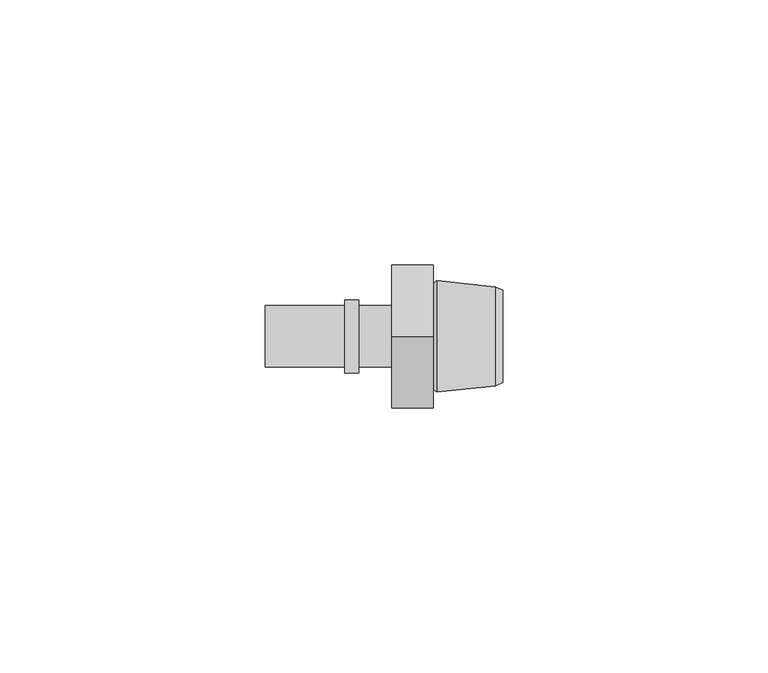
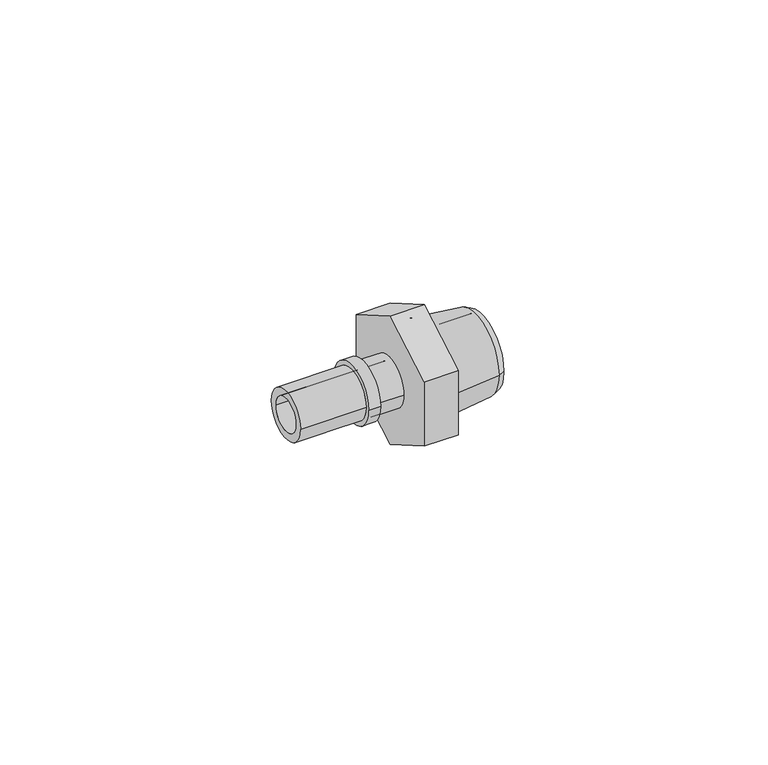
"""IFC4 building model written with IfcOpenShell, lengths in millimetres: pipe fitting geometry, FASTLOC_Adapter_LX, with external thread : FSL A C external PL."""

from ifc_helpers import new_model, si_unit, frame, origin, place, context, project, spatial, polyline, circle_curve, outline, extrude, source, transform, mapped, element, save
from ifc_brep_helpers import plane_surface, cylinder_surface, revolved_surface, advanced_brep


def pipe_fitting_095a3a5d(model_context):
    return source(origin(), model_context, "Body", "SolidModel", [
        extrude(outline(polyline([(-13.5, 7.7942286), (0.0, 15.5884573), (13.5, 7.7942286), (13.5, -7.7942286), (0.0, -15.5884573), (-13.5, -7.7942286), (-13.5, 7.7942286)])), frame((0.0, 0.0, 0.0), z_axis=(1.0, 0.0, 0.0), x_axis=(0.0, 1.0, 0.0)), (0.0, 0.0, 1.0), 7.8),
        advanced_brep(
        [(8.9032803, 7.5, 0.0), (8.9032803, -7.5, 0.0), (21.0, -7.5, 0.0), (21.0, 7.5, 0.0), (7.8, 6.3967197, 0.0), (7.8, -6.3967197, 0.0), (8.5406902, 10.55, 0.0), (8.5406902, -10.55, 0.0), (7.8, -10.0, 0.0), (7.8, 10.0, 0.0), (19.5000007, 9.35, 0.0), (19.5000007, -9.35, 0.0), (21.0, 8.725, 0.0), (21.0, -8.725, 0.0)],
        [
            (0, 1, circle_curve(frame((8.9032803, 0.0, 0.0), z_axis=(-1.0, 0.0, 0.0), x_axis=(0.0, -1.0, 0.0)), 7.5)),
            (1, 2),
            (2, 3, circle_curve(frame((21.0, 0.0, 0.0), z_axis=(1.0, 0.0, 0.0), x_axis=(0.0, -1.0, 0.0)), 7.5)),
            (3, 0),
            (4, 5, circle_curve(frame((7.8, 0.0, 0.0), z_axis=(-1.0, 0.0, 0.0), x_axis=(0.0, -1.0, 0.0)), 6.3967197)),
            (5, 1),
            (0, 4),
            (6, 7, circle_curve(frame((8.5406902, 0.0, 0.0), z_axis=(-1.0, 0.0, 0.0), x_axis=(0.0, -1.0, 0.0)), 10.55)),
            (7, 8),
            (8, 9, circle_curve(frame((7.8, 0.0, 0.0), z_axis=(1.0, 0.0, 0.0), x_axis=(0.0, -1.0, 0.0)), 10.0)),
            (9, 6),
            (10, 11, circle_curve(frame((19.5000007, 0.0, 0.0), z_axis=(-1.0, 0.0, 0.0), x_axis=(0.0, -1.0, 0.0)), 9.35)),
            (11, 7),
            (6, 10),
            (12, 13, circle_curve(frame((21.0, 0.0, 0.0), z_axis=(-1.0, 0.0, 0.0), x_axis=(0.0, -1.0, 0.0)), 8.725)),
            (13, 11),
            (10, 12),
            (1, 0, circle_curve(frame((8.9032803, 0.0, 0.0), z_axis=(-1.0, 0.0, 0.0), x_axis=(0.0, 1.0, 0.0)), 7.5)),
            (3, 2, circle_curve(frame((21.0, 0.0, 0.0), z_axis=(1.0, 0.0, 0.0), x_axis=(0.0, 1.0, 0.0)), 7.5)),
            (5, 4, circle_curve(frame((7.8, 0.0, 0.0), z_axis=(-1.0, 0.0, 0.0), x_axis=(0.0, 1.0, 0.0)), 6.3967197)),
            (8, 9, circle_curve(frame((7.8, 0.0, 0.0), z_axis=(-1.0, 0.0, 0.0), x_axis=(0.0, 1.0, 0.0)), 10.0)),
            (7, 6, circle_curve(frame((8.5406902, 0.0, 0.0), z_axis=(-1.0, 0.0, 0.0), x_axis=(0.0, 1.0, 0.0)), 10.55)),
            (11, 10, circle_curve(frame((19.5000007, 0.0, 0.0), z_axis=(-1.0, 0.0, 0.0), x_axis=(0.0, 1.0, 0.0)), 9.35)),
            (13, 12, circle_curve(frame((21.0, 0.0, 0.0), z_axis=(-1.0, 0.0, 0.0), x_axis=(0.0, 1.0, 0.0)), 8.725)),
        ],
        [
            revolved_surface(polyline([(21.0, -7.5, 0.0), (8.9032803, -7.5, 0.0)]), (0.0, 0.0, 0.0), (1.0, 0.0, 0.0)),
            revolved_surface(polyline([(8.9032803, -7.5, 0.0), (7.8, -6.3967197, 0.0)]), (0.0, 0.0, 0.0), (1.0, 0.0, 0.0)),
            revolved_surface(polyline([(7.8, -10.0, 0.0), (8.5406902, -10.55, 0.0)]), (0.0, 0.0, 0.0), (1.0, 0.0, 0.0)),
            revolved_surface(polyline([(8.5406902, -10.55, 0.0), (19.5000007, -9.35, 0.0)]), (0.0, 0.0, 0.0), (1.0, 0.0, 0.0)),
            revolved_surface(polyline([(19.5000007, -9.35, 0.0), (21.0, -8.725, 0.0)]), (0.0, 0.0, 0.0), (1.0, 0.0, 0.0)),
            revolved_surface(polyline([(21.0, 7.5, 0.0), (8.9032803, 7.5, 0.0)]), (0.0, 0.0, 0.0), (1.0, 0.0, 0.0)),
            revolved_surface(polyline([(8.9032803, 7.5, 0.0), (7.8, 6.3967197, 0.0)]), (0.0, 0.0, 0.0), (1.0, 0.0, 0.0)),
            plane_surface(frame((7.8, 0.0, 0.0), z_axis=(-1.0, 0.0, 0.0), x_axis=(0.0, 1.0, 0.0))),
            revolved_surface(polyline([(7.8, 10.0, 0.0), (8.5406902, 10.55, 0.0)]), (0.0, 0.0, 0.0), (1.0, 0.0, 0.0)),
            revolved_surface(polyline([(8.5406902, 10.55, 0.0), (19.5000007, 9.35, 0.0)]), (0.0, 0.0, 0.0), (1.0, 0.0, 0.0)),
            revolved_surface(polyline([(19.5000007, 9.35, 0.0), (21.0, 8.725, 0.0)]), (0.0, 0.0, 0.0), (1.0, 0.0, 0.0)),
            plane_surface(frame((21.0, 0.0, 0.0), z_axis=(1.0, 0.0, 0.0), x_axis=(0.0, 1.0, 0.0))),
        ],
        [
            (0, [[1, 2, 3, 4]]),
            (1, [[5, 6, -1, 7]]),
            (2, [[8, 9, 10, 11]]),
            (3, [[12, 13, -8, 14]]),
            (4, [[15, 16, -12, 17]]),
            (5, [[18, -4, 19, -2]]),
            (6, [[20, -7, -18, -6]]),
            (7, [[21, -10], [-20, -5]]),
            (8, [[22, -11, -21, -9]]),
            (9, [[23, -14, -22, -13]]),
            (10, [[24, -17, -23, -16]]),
            (11, [[-24, -15], [-19, -3]]),
        ],
    ),
        advanced_brep(
        [(-8.9, 5.8, 0.0), (-8.9, -5.8, 0.0), (-23.9, -5.8, 0.0), (-23.9, 5.8, 0.0), (-6.2, 6.9, 0.0), (-6.2, -6.9, 0.0), (-8.9, -6.9, 0.0), (-8.9, 6.9, 0.0), (0.0, 5.8, 0.0), (0.0, -5.8, 0.0), (-6.2, -5.8, 0.0), (-6.2, 5.8, 0.0), (-23.9, 3.95, 0.0), (-23.9, -3.95, 0.0), (0.0, -3.95, 0.0), (0.0, 3.95, 0.0)],
        [
            (0, 1, circle_curve(frame((-8.9, 0.0, 0.0), z_axis=(-1.0, 0.0, 0.0), x_axis=(0.0, -1.0, 0.0)), 5.8)),
            (1, 2),
            (2, 3, circle_curve(frame((-23.9, 0.0, 0.0), z_axis=(1.0, 0.0, 0.0), x_axis=(0.0, -1.0, 0.0)), 5.8)),
            (3, 0),
            (4, 5, circle_curve(frame((-6.2, 0.0, 0.0), z_axis=(-1.0, 0.0, 0.0), x_axis=(0.0, -1.0, 0.0)), 6.9)),
            (5, 6),
            (6, 7, circle_curve(frame((-8.9, 0.0, 0.0), z_axis=(1.0, 0.0, 0.0), x_axis=(0.0, -1.0, 0.0)), 6.9)),
            (7, 4),
            (8, 9, circle_curve(frame((0.0, 0.0, 0.0), z_axis=(-1.0, 0.0, 0.0), x_axis=(0.0, -1.0, 0.0)), 5.8)),
            (9, 10),
            (10, 11, circle_curve(frame((-6.2, 0.0, 0.0), z_axis=(1.0, 0.0, 0.0), x_axis=(0.0, -1.0, 0.0)), 5.8)),
            (11, 8),
            (12, 13, circle_curve(frame((-23.9, 0.0, 0.0), z_axis=(-1.0, 0.0, 0.0), x_axis=(0.0, -1.0, 0.0)), 3.95)),
            (13, 14),
            (14, 15, circle_curve(frame((0.0, 0.0, 0.0), z_axis=(1.0, 0.0, 0.0), x_axis=(0.0, -1.0, 0.0)), 3.95)),
            (15, 12),
            (2, 3, circle_curve(frame((-23.9, 0.0, 0.0), z_axis=(-1.0, 0.0, 0.0), x_axis=(0.0, 1.0, 0.0)), 5.8)),
            (12, 13, circle_curve(frame((-23.9, 0.0, 0.0), z_axis=(1.0, 0.0, 0.0), x_axis=(0.0, 1.0, 0.0)), 3.95)),
            (1, 0, circle_curve(frame((-8.9, 0.0, 0.0), z_axis=(-1.0, 0.0, 0.0), x_axis=(0.0, 1.0, 0.0)), 5.8)),
            (6, 7, circle_curve(frame((-8.9, 0.0, 0.0), z_axis=(-1.0, 0.0, 0.0), x_axis=(0.0, 1.0, 0.0)), 6.9)),
            (5, 4, circle_curve(frame((-6.2, 0.0, 0.0), z_axis=(-1.0, 0.0, 0.0), x_axis=(0.0, 1.0, 0.0)), 6.9)),
            (10, 11, circle_curve(frame((-6.2, 0.0, 0.0), z_axis=(-1.0, 0.0, 0.0), x_axis=(0.0, 1.0, 0.0)), 5.8)),
            (9, 8, circle_curve(frame((0.0, 0.0, 0.0), z_axis=(-1.0, 0.0, 0.0), x_axis=(0.0, 1.0, 0.0)), 5.8)),
            (14, 15, circle_curve(frame((0.0, 0.0, 0.0), z_axis=(-1.0, 0.0, 0.0), x_axis=(0.0, 1.0, 0.0)), 3.95)),
        ],
        [
            cylinder_surface(frame((0.0, 0.0, 0.0), z_axis=(1.0, 0.0, 0.0), x_axis=(0.0, -1.0, 0.0)), 5.8),
            cylinder_surface(frame((0.0, 0.0, 0.0), z_axis=(1.0, 0.0, 0.0), x_axis=(0.0, -1.0, 0.0)), 6.9),
            revolved_surface(polyline([(0.0, -3.95, 0.0), (-23.9, -3.95, 0.0)]), (0.0, 0.0, 0.0), (1.0, 0.0, 0.0)),
            plane_surface(frame((-23.9, 0.0, 0.0), z_axis=(-1.0, 0.0, 0.0), x_axis=(0.0, 1.0, 0.0))),
            cylinder_surface(frame((0.0, 0.0, 0.0), z_axis=(1.0, 0.0, 0.0), x_axis=(0.0, 1.0, 0.0)), 5.8),
            plane_surface(frame((-8.9, 0.0, 0.0), z_axis=(-1.0, 0.0, 0.0), x_axis=(0.0, 1.0, 0.0))),
            cylinder_surface(frame((0.0, 0.0, 0.0), z_axis=(1.0, 0.0, 0.0), x_axis=(0.0, 1.0, 0.0)), 6.9),
            plane_surface(frame((-6.2, 0.0, 0.0), z_axis=(1.0, 0.0, 0.0), x_axis=(0.0, 1.0, 0.0))),
            plane_surface(frame((0.0, 0.0, 0.0), z_axis=(1.0, 0.0, 0.0), x_axis=(0.0, 1.0, 0.0))),
            revolved_surface(polyline([(0.0, 3.95, 0.0), (-23.9, 3.95, 0.0)]), (0.0, 0.0, 0.0), (1.0, 0.0, 0.0)),
        ],
        [
            (0, [[1, 2, 3, 4]]),
            (1, [[5, 6, 7, 8]]),
            (0, [[9, 10, 11, 12]]),
            (2, [[13, 14, 15, 16]]),
            (3, [[17, -3], [18, -13]]),
            (4, [[19, -4, -17, -2]]),
            (5, [[20, -7], [-19, -1]]),
            (6, [[21, -8, -20, -6]]),
            (7, [[-21, -5], [22, -11]]),
            (4, [[23, -12, -22, -10]]),
            (8, [[-23, -9], [24, -15]]),
            (9, [[-18, -16, -24, -14]]),
        ],
    ),
    ])


if __name__ == "__main__":
    model = new_model("IFC4")
    model_context = context("Model", 3, world=origin())
    ifc_project = project(units=[si_unit("LENGTHUNIT", "METRE", prefix="MILLI")], contexts=[model_context])
    site = spatial("IfcSite", under=ifc_project)
    building = spatial("IfcBuilding", under=site)
    placement = place(None, origin())
    pipe_fitting_shape = pipe_fitting_095a3a5d(model_context)
    element("IfcPipeFitting", 1, ObjectType="FASTLOC_Adapter_LX, with external thread : FSL A C external PL", at=placement, inside=building, context=model_context, shape_type="MappedRepresentation", body=[
        mapped(pipe_fitting_shape, transform((0.0, 0.0, 0.0), x_axis=(1.0, 0.0, 0.0), y_axis=(0.0, 1.0, 0.0), z_axis=(0.0, 0.0, 1.0))),
    ])
    save(model, "model.ifc")
